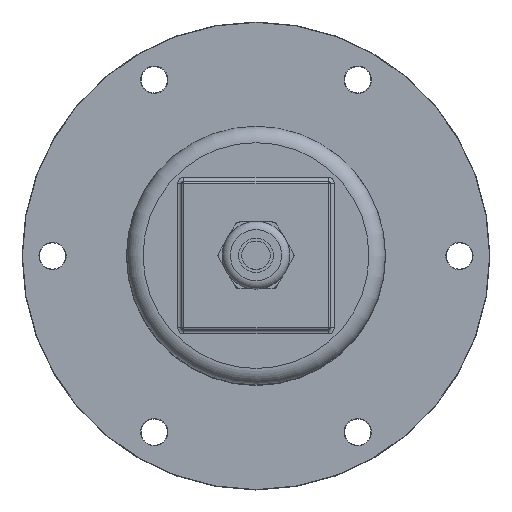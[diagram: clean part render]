
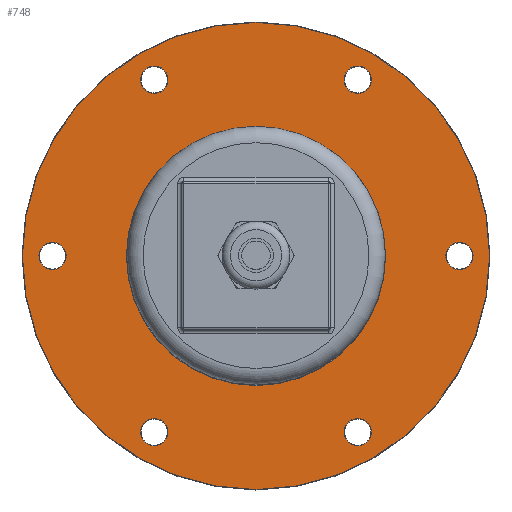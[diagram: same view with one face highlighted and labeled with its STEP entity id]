
A CAD part, top view. The second image highlights one B-rep face of the part: STEP entity #748.
In plain terms, the highlighted planar face has unit normal (0, 0, 1).
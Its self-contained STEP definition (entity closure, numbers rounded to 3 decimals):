
#701 = VERTEX_POINT('',#702);
#702 = CARTESIAN_POINT('',(31.85,0.,11.));
#711 = EDGE_CURVE('',#701,#701,#712,.T.);
#712 = CIRCLE('',#713,31.85);
#713 = AXIS2_PLACEMENT_3D('',#714,#715,#716);
#714 = CARTESIAN_POINT('',(0.,0.,11.));
#715 = DIRECTION('',(0.,0.,1.));
#716 = DIRECTION('',(1.,0.,-0.));
#748 = ADVANCED_FACE('',(#749,#752,#763,#774,#785,#796,#807,#818),#829,
  .T.);
#749 = FACE_BOUND('',#750,.T.);
#750 = EDGE_LOOP('',(#751));
#751 = ORIENTED_EDGE('',*,*,#711,.F.);
#752 = FACE_BOUND('',#753,.T.);
#753 = EDGE_LOOP('',(#754));
#754 = ORIENTED_EDGE('',*,*,#755,.F.);
#755 = EDGE_CURVE('',#756,#756,#758,.T.);
#756 = VERTEX_POINT('',#757);
#757 = CARTESIAN_POINT('',(23.325,-40.4,11.));
#758 = CIRCLE('',#759,3.35);
#759 = AXIS2_PLACEMENT_3D('',#760,#761,#762);
#760 = CARTESIAN_POINT('',(25.,-43.301,11.));
#761 = DIRECTION('',(0.,0.,1.));
#762 = DIRECTION('',(-0.5,0.866,0.));
#763 = FACE_BOUND('',#764,.T.);
#764 = EDGE_LOOP('',(#765));
#765 = ORIENTED_EDGE('',*,*,#766,.F.);
#766 = EDGE_CURVE('',#767,#767,#769,.T.);
#767 = VERTEX_POINT('',#768);
#768 = CARTESIAN_POINT('',(46.65,0.,11.));
#769 = CIRCLE('',#770,3.35);
#770 = AXIS2_PLACEMENT_3D('',#771,#772,#773);
#771 = CARTESIAN_POINT('',(50.,0.,11.));
#772 = DIRECTION('',(0.,0.,1.));
#773 = DIRECTION('',(-1.,0.,0.));
#774 = FACE_BOUND('',#775,.T.);
#775 = EDGE_LOOP('',(#776));
#776 = ORIENTED_EDGE('',*,*,#777,.F.);
#777 = EDGE_CURVE('',#778,#778,#780,.T.);
#778 = VERTEX_POINT('',#779);
#779 = CARTESIAN_POINT('',(23.325,40.4,11.));
#780 = CIRCLE('',#781,3.35);
#781 = AXIS2_PLACEMENT_3D('',#782,#783,#784);
#782 = CARTESIAN_POINT('',(25.,43.301,11.));
#783 = DIRECTION('',(0.,0.,1.));
#784 = DIRECTION('',(-0.5,-0.866,0.));
#785 = FACE_BOUND('',#786,.T.);
#786 = EDGE_LOOP('',(#787));
#787 = ORIENTED_EDGE('',*,*,#788,.F.);
#788 = EDGE_CURVE('',#789,#789,#791,.T.);
#789 = VERTEX_POINT('',#790);
#790 = CARTESIAN_POINT('',(-23.325,40.4,11.));
#791 = CIRCLE('',#792,3.35);
#792 = AXIS2_PLACEMENT_3D('',#793,#794,#795);
#793 = CARTESIAN_POINT('',(-25.,43.301,11.));
#794 = DIRECTION('',(-0.,0.,1.));
#795 = DIRECTION('',(0.5,-0.866,0.));
#796 = FACE_BOUND('',#797,.T.);
#797 = EDGE_LOOP('',(#798));
#798 = ORIENTED_EDGE('',*,*,#799,.F.);
#799 = EDGE_CURVE('',#800,#800,#802,.T.);
#800 = VERTEX_POINT('',#801);
#801 = CARTESIAN_POINT('',(-46.65,0.,11.));
#802 = CIRCLE('',#803,3.35);
#803 = AXIS2_PLACEMENT_3D('',#804,#805,#806);
#804 = CARTESIAN_POINT('',(-50.,0.,11.));
#805 = DIRECTION('',(0.,0.,1.));
#806 = DIRECTION('',(1.,0.,0.));
#807 = FACE_BOUND('',#808,.T.);
#808 = EDGE_LOOP('',(#809));
#809 = ORIENTED_EDGE('',*,*,#810,.F.);
#810 = EDGE_CURVE('',#811,#811,#813,.T.);
#811 = VERTEX_POINT('',#812);
#812 = CARTESIAN_POINT('',(-23.325,-40.4,11.));
#813 = CIRCLE('',#814,3.35);
#814 = AXIS2_PLACEMENT_3D('',#815,#816,#817);
#815 = CARTESIAN_POINT('',(-25.,-43.301,11.));
#816 = DIRECTION('',(0.,-0.,1.));
#817 = DIRECTION('',(0.5,0.866,0.));
#818 = FACE_BOUND('',#819,.T.);
#819 = EDGE_LOOP('',(#820));
#820 = ORIENTED_EDGE('',*,*,#821,.T.);
#821 = EDGE_CURVE('',#822,#822,#824,.T.);
#822 = VERTEX_POINT('',#823);
#823 = CARTESIAN_POINT('',(57.4,0.,11.));
#824 = CIRCLE('',#825,57.4);
#825 = AXIS2_PLACEMENT_3D('',#826,#827,#828);
#826 = CARTESIAN_POINT('',(0.,0.,11.));
#827 = DIRECTION('',(0.,0.,1.));
#828 = DIRECTION('',(1.,0.,0.));
#829 = PLANE('',#830);
#830 = AXIS2_PLACEMENT_3D('',#831,#832,#833);
#831 = CARTESIAN_POINT('',(0.,0.,11.));
#832 = DIRECTION('',(0.,0.,1.));
#833 = DIRECTION('',(1.,0.,0.));
